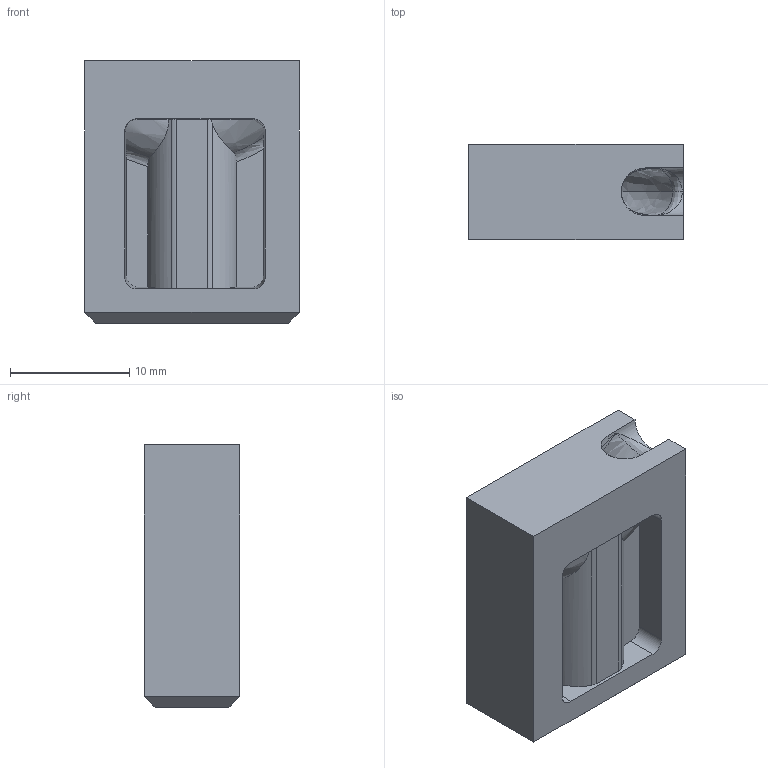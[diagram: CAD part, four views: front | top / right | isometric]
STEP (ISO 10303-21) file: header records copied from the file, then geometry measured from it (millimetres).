
FILE_DESCRIPTION((''),'2;1');
FILE_NAME('TGC1','2004-03-24T',('tmeister'),(''),'PRO/ENGINEER BY PARAMETRIC TECHNOLOGY CORPORATION, 2002270','PRO/ENGINEER BY PARAMETRIC TECHNOLOGY CORPORATION, 2002270','');
FILE_SCHEMA(('CONFIG_CONTROL_DESIGN'));
Length unit declared in the file: millimetre
Products named in the file (1): TGC1
Bounding box: 18 x 8 x 22 mm (x, y, z)
Volume: 2414.4 mm3; surface area: 2110.1 mm2
Topology: 1 solids, 4 shells, 88 faces, 310 edges, 221 vertices
Faces by surface type: bspline 26, plane 25, cylinder 21, sphere 8, cone 4, torus 2, revolution 2
Entity records: 5531 total; most frequent: CARTESIAN_POINT 3300, ORIENTED_EDGE 432, DIRECTION 349, EDGE_CURVE 220, VERTEX_POINT 140, VECTOR 127, LINE 127, B_SPLINE_CURVE_WITH_KNOTS 126
